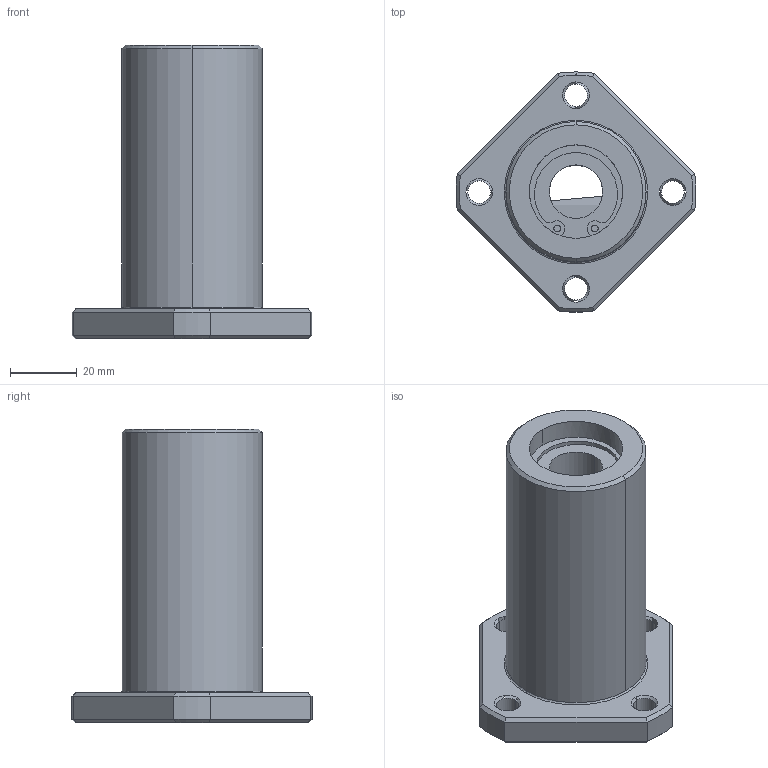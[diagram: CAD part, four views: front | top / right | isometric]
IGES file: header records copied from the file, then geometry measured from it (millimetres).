
Start section: 3D InterOp IGES (Version 21 0 1), Spatial Corp. Copyright (c) 1999-2007.
Global section: file name: LCF-16AVUU.igs; native system: Spatial Corp.; preprocessor: 3D InterOp GENERIC/IGES 3.0; author: Noname; organization: Noname; date: 20220517.163115; units: millimetre
Bounding box: 71.91 x 71.95 x 88 mm (x, y, z)
Surface area: 23515.7 mm2 (no closed solid volume)
Topology: 0 solids, 0 shells, 109 faces, 532 edges, 532 vertices
Faces by surface type: revolution 81, extrusion 28
